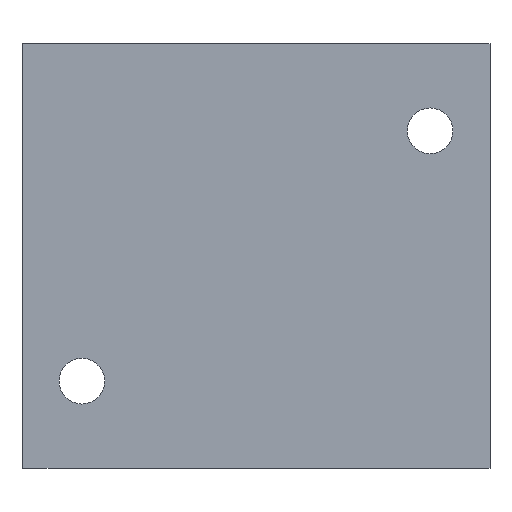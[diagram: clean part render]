
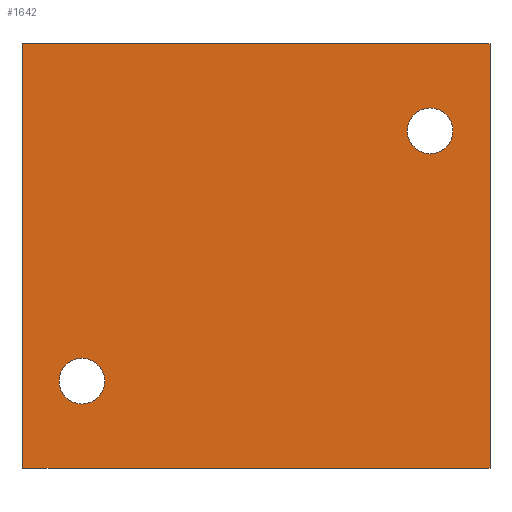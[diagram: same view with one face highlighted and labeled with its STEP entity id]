
A CAD part, front view. The second image highlights one B-rep face of the part: STEP entity #1642.
In plain terms, the highlighted planar face has unit normal (0, -1, 0).
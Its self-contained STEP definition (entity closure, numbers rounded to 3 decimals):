
#10 = CIRCLE ( 'NONE', #310, 2.1 ) ;
#14 = CARTESIAN_POINT ( 'NONE',  ( 21.5, -17.5, 19.5 ) ) ;
#35 = CARTESIAN_POINT ( 'NONE',  ( 16., -17.5, 9.4 ) ) ;
#59 = LINE ( 'NONE', #1743, #125 ) ;
#70 = DIRECTION ( 'NONE',  ( 1., 0., 0. ) ) ;
#125 = VECTOR ( 'NONE', #1912, 1000. ) ;
#133 = AXIS2_PLACEMENT_3D ( 'NONE', #200, #1393, #1906 ) ;
#134 = DIRECTION ( 'NONE',  ( 0., 0., -1. ) ) ;
#151 = VERTEX_POINT ( 'NONE', #1695 ) ;
#189 = CARTESIAN_POINT ( 'NONE',  ( -21.5, -17.5, 19.5 ) ) ;
#200 = CARTESIAN_POINT ( 'NONE',  ( -16., -17.5, -11.5 ) ) ;
#302 = ORIENTED_EDGE ( 'NONE', *, *, #1900, .F. ) ;
#310 = AXIS2_PLACEMENT_3D ( 'NONE', #753, #430, #1927 ) ;
#315 = AXIS2_PLACEMENT_3D ( 'NONE', #1663, #1975, #134 ) ;
#352 = ORIENTED_EDGE ( 'NONE', *, *, #2149, .T. ) ;
#396 = CARTESIAN_POINT ( 'NONE',  ( -21.5, -17.5, 19.5 ) ) ;
#397 = DIRECTION ( 'NONE',  ( 1., 0., 0. ) ) ;
#430 = DIRECTION ( 'NONE',  ( 0., -1., 0. ) ) ;
#443 = ORIENTED_EDGE ( 'NONE', *, *, #818, .F. ) ;
#488 = DIRECTION ( 'NONE',  ( 0., 1., 0. ) ) ;
#496 = DIRECTION ( 'NONE',  ( 0., 0., -1. ) ) ;
#558 = LINE ( 'NONE', #189, #1340 ) ;
#578 = ORIENTED_EDGE ( 'NONE', *, *, #1551, .F. ) ;
#658 = PLANE ( 'NONE',  #2092 ) ;
#753 = CARTESIAN_POINT ( 'NONE',  ( 16., -17.5, 11.5 ) ) ;
#808 = CARTESIAN_POINT ( 'NONE',  ( 16., -17.5, 13.6 ) ) ;
#816 = CIRCLE ( 'NONE', #133, 2.1 ) ;
#818 = EDGE_CURVE ( 'NONE', #2033, #2165, #1344, .T. ) ;
#866 = FACE_OUTER_BOUND ( 'NONE', #1228, .T. ) ;
#921 = VERTEX_POINT ( 'NONE', #993 ) ;
#926 = VERTEX_POINT ( 'NONE', #808 ) ;
#993 = CARTESIAN_POINT ( 'NONE',  ( 21.5, -17.5, -19.5 ) ) ;
#1038 = LINE ( 'NONE', #1582, #2023 ) ;
#1039 = DIRECTION ( 'NONE',  ( 0., 0., -1. ) ) ;
#1076 = ORIENTED_EDGE ( 'NONE', *, *, #1494, .F. ) ;
#1133 = VERTEX_POINT ( 'NONE', #35 ) ;
#1225 = CARTESIAN_POINT ( 'NONE',  ( -16., -17.5, -13.6 ) ) ;
#1228 = EDGE_LOOP ( 'NONE', ( #352, #1076, #1989, #2067 ) ) ;
#1297 = CARTESIAN_POINT ( 'NONE',  ( -16., -17.5, -9.4 ) ) ;
#1340 = VECTOR ( 'NONE', #1039, 1000. ) ;
#1341 = DIRECTION ( 'NONE',  ( 0., 0., 1. ) ) ;
#1344 = CIRCLE ( 'NONE', #1624, 2.1 ) ;
#1351 = FACE_BOUND ( 'NONE', #1794, .T. ) ;
#1393 = DIRECTION ( 'NONE',  ( 0., -1., 0. ) ) ;
#1470 = EDGE_CURVE ( 'NONE', #1855, #1715, #1735, .T. ) ;
#1494 = EDGE_CURVE ( 'NONE', #1715, #921, #59, .T. ) ;
#1541 = EDGE_LOOP ( 'NONE', ( #578, #302 ) ) ;
#1551 = EDGE_CURVE ( 'NONE', #1133, #926, #10, .T. ) ;
#1582 = CARTESIAN_POINT ( 'NONE',  ( -21.5, -17.5, -19.5 ) ) ;
#1624 = AXIS2_PLACEMENT_3D ( 'NONE', #1968, #1665, #496 ) ;
#1642 = ADVANCED_FACE ( 'NONE', ( #1971, #866, #1351 ), #658, .F. ) ;
#1663 = CARTESIAN_POINT ( 'NONE',  ( 16., -17.5, 11.5 ) ) ;
#1665 = DIRECTION ( 'NONE',  ( 0., -1., 0. ) ) ;
#1693 = EDGE_CURVE ( 'NONE', #1855, #151, #558, .T. ) ;
#1695 = CARTESIAN_POINT ( 'NONE',  ( -21.5, -17.5, -19.5 ) ) ;
#1715 = VERTEX_POINT ( 'NONE', #14 ) ;
#1735 = LINE ( 'NONE', #396, #2163 ) ;
#1739 = EDGE_CURVE ( 'NONE', #2165, #2033, #816, .T. ) ;
#1743 = CARTESIAN_POINT ( 'NONE',  ( 21.5, -17.5, 19.5 ) ) ;
#1794 = EDGE_LOOP ( 'NONE', ( #2052, #443 ) ) ;
#1796 = CARTESIAN_POINT ( 'NONE',  ( -21.5, -17.5, 19.5 ) ) ;
#1811 = CARTESIAN_POINT ( 'NONE',  ( -21.5, -17.5, 19.5 ) ) ;
#1855 = VERTEX_POINT ( 'NONE', #1796 ) ;
#1858 = CIRCLE ( 'NONE', #315, 2.1 ) ;
#1900 = EDGE_CURVE ( 'NONE', #926, #1133, #1858, .T. ) ;
#1906 = DIRECTION ( 'NONE',  ( 0., 0., -1. ) ) ;
#1912 = DIRECTION ( 'NONE',  ( 0., 0., -1. ) ) ;
#1927 = DIRECTION ( 'NONE',  ( 0., 0., -1. ) ) ;
#1968 = CARTESIAN_POINT ( 'NONE',  ( -16., -17.5, -11.5 ) ) ;
#1971 = FACE_BOUND ( 'NONE', #1541, .T. ) ;
#1975 = DIRECTION ( 'NONE',  ( 0., -1., 0. ) ) ;
#1989 = ORIENTED_EDGE ( 'NONE', *, *, #1470, .F. ) ;
#2023 = VECTOR ( 'NONE', #397, 1000. ) ;
#2033 = VERTEX_POINT ( 'NONE', #1297 ) ;
#2052 = ORIENTED_EDGE ( 'NONE', *, *, #1739, .F. ) ;
#2067 = ORIENTED_EDGE ( 'NONE', *, *, #1693, .T. ) ;
#2092 = AXIS2_PLACEMENT_3D ( 'NONE', #1811, #488, #1341 ) ;
#2149 = EDGE_CURVE ( 'NONE', #151, #921, #1038, .T. ) ;
#2163 = VECTOR ( 'NONE', #70, 1000. ) ;
#2165 = VERTEX_POINT ( 'NONE', #1225 ) ;
